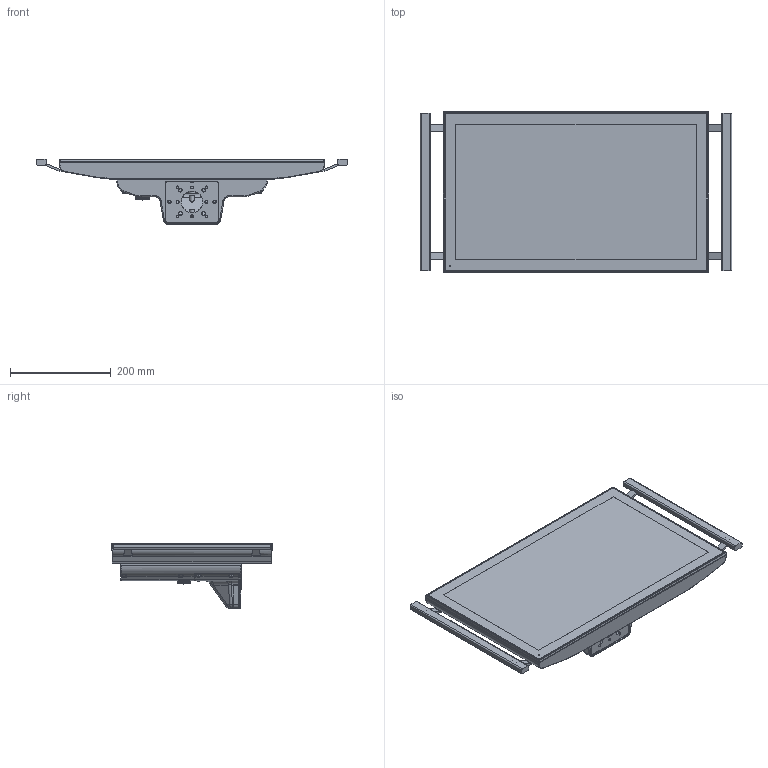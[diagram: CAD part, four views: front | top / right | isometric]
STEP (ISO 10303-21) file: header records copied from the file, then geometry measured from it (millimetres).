
FILE_DESCRIPTION (( 'STEP AP214' ), '1' );
FILE_NAME ('vk3500_215_bottom_maniglie_usbpost.STEP', '2022-03-08T15:52:19', ( '' ), ( '' ), 'SwSTEP 2.0', 'SolidWorks 2021', '' );
FILE_SCHEMA (( 'AUTOMOTIVE_DESIGN' ));
Length unit declared in the file: millimetre
Products named in the file (15): 56600624; 56600541; 66811015; 56236021; 55688012; 60290002; 55600028; 69111021; 50342037; 57836056_Default<A macchina>; vk3500_215_bottom_maniglie_usbpost; ________________________________________^00_d18201915; 56202009; kit_posteriore_arm_usb3; 56636883
Assembly tree (30 placements, depth 4):
  vk3500_215_bottom_maniglie_usbpost
    56600624
      56600541
        56636883
        50342037
      55600028
        55688012
    57836056_Default<A macchina>
    56202009  x4
    56236021  x2
    66811015  x8
    69111021  x4
    60290002  x4
    kit_posteriore_arm_usb3
  ________________________________________^00_d18201915
Bounding box: 619.5 x 320.15 x 130.72 mm (x, y, z)
Volume: 1196226.7 mm3; surface area: 1061924.8 mm2
Topology: 32 solids, 74 shells, 3881 faces, 9517 edges, 5820 vertices
Faces by surface type: cylinder 1356, plane 1080, cone 718, bspline 508, torus 173, sphere 46
Entity records: 161517 total; most frequent: CARTESIAN_POINT 60891, ORIENTED_EDGE 15968, DIRECTION 15371, EDGE_CURVE 8006, AXIS2_PLACEMENT_3D 5984, VERTEX_POINT 4910, EDGE_LOOP 3626, VECTOR 3403
